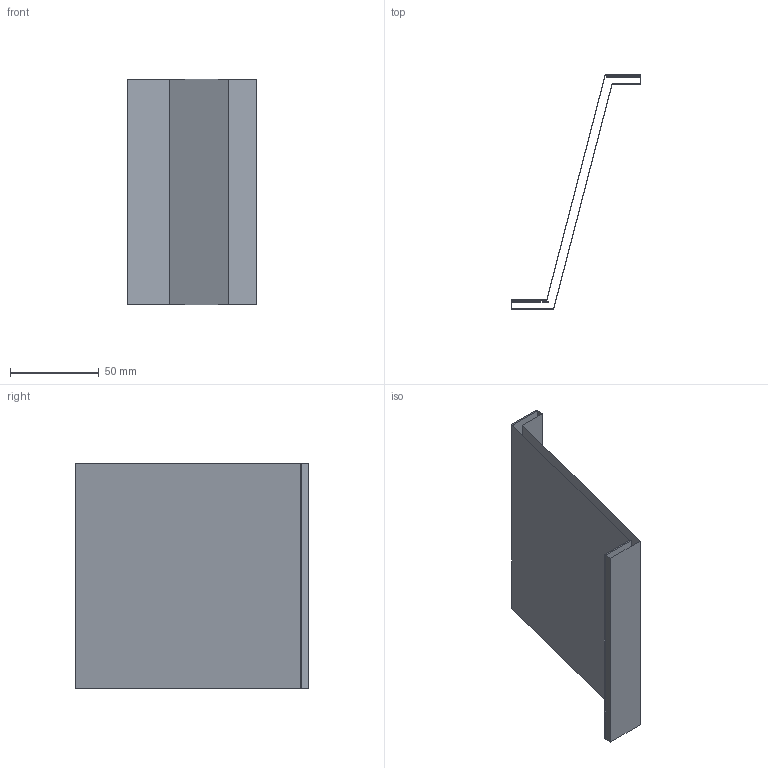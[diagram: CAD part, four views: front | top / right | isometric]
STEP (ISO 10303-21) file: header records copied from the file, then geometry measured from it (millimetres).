
FILE_DESCRIPTION(('CATIA V5 STEP Exchange'),'2;1');
FILE_NAME('C:\_Andres\UNIVERSIDAD\IQS\ASIGNATURAS\DAO\EXF\EXF-16172c\2inicio\Reyes_Carmenaty_Ej06_v27.stp','2017-03-05T21:01:27+00:00',('none'),('none'),'CATIA Version 5-6 Release 2014 SP1 HF18','CATIA V5 STEP AP203','none');
FILE_SCHEMA(('CONFIG_CONTROL_DESIGN'));
Length unit declared in the file: millimetre
Products named in the file (1): Reyes_Carmenaty_Ej06_v27
Bounding box: 73 x 132 x 127 mm (x, y, z)
Surface area: 49585.2 mm2 (no closed solid volume)
Topology: 0 solids, 2 shells, 10 faces, 42 edges, 36 vertices
Faces by surface type: plane 10
Entity records: 461 total; most frequent: CARTESIAN_POINT 100, DIRECTION 59, ORIENTED_EDGE 40, VECTOR 39, LINE 39, EDGE_CURVE 32, VERTEX_POINT 24, AXIS2_PLACEMENT_3D 11
